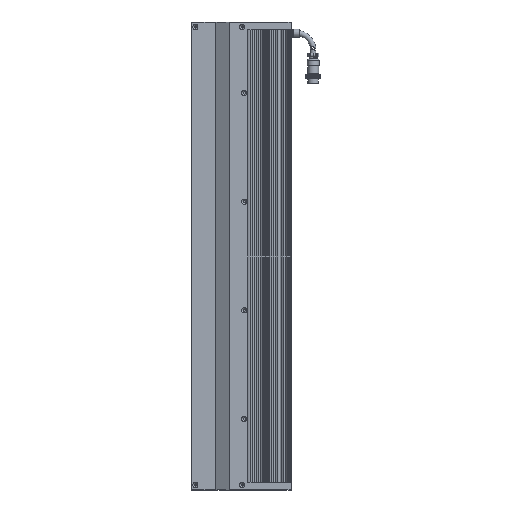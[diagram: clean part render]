
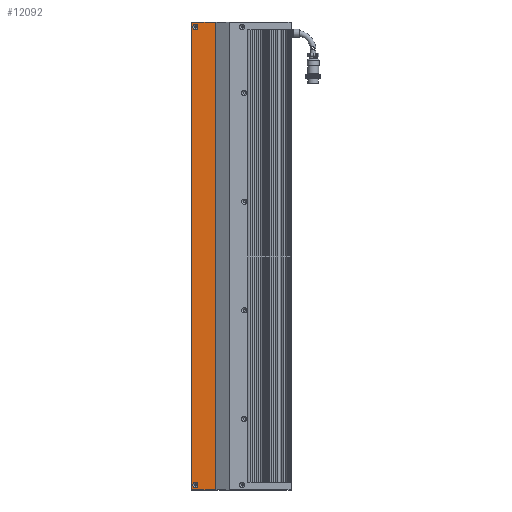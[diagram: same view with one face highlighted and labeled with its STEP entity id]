
A CAD part, left-side view. The second image highlights one B-rep face of the part: STEP entity #12092.
In plain terms, the highlighted planar face has unit normal (-1, 0, 0).
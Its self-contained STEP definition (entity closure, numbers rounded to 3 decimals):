
#1558 = DIRECTION ( 'NONE',  ( -1., 0., 0. ) ) ;
#1639 = EDGE_CURVE ( 'NONE', #123314, #17436, #33604, .T. ) ;
#2332 = ORIENTED_EDGE ( 'NONE', *, *, #108965, .F. ) ;
#3420 = CARTESIAN_POINT ( 'NONE',  ( -15.462, -7.561, 120. ) ) ;
#5259 = CARTESIAN_POINT ( 'NONE',  ( -15.462, -7.561, 679. ) ) ;
#7761 = AXIS2_PLACEMENT_3D ( 'NONE', #124153, #113135, #84696 ) ;
#10048 = EDGE_CURVE ( 'NONE', #24929, #85421, #80232, .T. ) ;
#11367 = VECTOR ( 'NONE', #71825, 1000. ) ;
#12092 = ADVANCED_FACE ( 'NONE', ( #41991, #28560, #13125 ), #63566, .F. ) ;
#13125 = FACE_OUTER_BOUND ( 'NONE', #73848, .T. ) ;
#13135 = DIRECTION ( 'NONE',  ( 0., 1., 0. ) ) ;
#17436 = VERTEX_POINT ( 'NONE', #70439 ) ;
#23473 = CARTESIAN_POINT ( 'NONE',  ( -15.462, 16.939, 676.65 ) ) ;
#24127 = DIRECTION ( 'NONE',  ( 0., 0., -1. ) ) ;
#24164 = EDGE_CURVE ( 'NONE', #17436, #24929, #94430, .T. ) ;
#24929 = VERTEX_POINT ( 'NONE', #49848 ) ;
#25849 = CARTESIAN_POINT ( 'NONE',  ( -15.462, -7.561, 677.5 ) ) ;
#26754 = ORIENTED_EDGE ( 'NONE', *, *, #30527, .F. ) ;
#28533 = AXIS2_PLACEMENT_3D ( 'NONE', #25849, #73338, #35216 ) ;
#28560 = FACE_BOUND ( 'NONE', #41383, .T. ) ;
#29096 = ORIENTED_EDGE ( 'NONE', *, *, #10048, .F. ) ;
#30527 = EDGE_CURVE ( 'NONE', #85421, #123314, #122242, .T. ) ;
#30822 = CARTESIAN_POINT ( 'NONE',  ( -15.462, 16.939, 125.5 ) ) ;
#33604 = LINE ( 'NONE', #49562, #91273 ) ;
#34321 = ORIENTED_EDGE ( 'NONE', *, *, #70617, .F. ) ;
#34702 = CIRCLE ( 'NONE', #110078, 3.15 ) ;
#35216 = DIRECTION ( 'NONE',  ( 0., 0., -1. ) ) ;
#41383 = EDGE_LOOP ( 'NONE', ( #2332 ) ) ;
#41991 = FACE_BOUND ( 'NONE', #115898, .T. ) ;
#49519 = CARTESIAN_POINT ( 'NONE',  ( -15.462, 21.439, 677.5 ) ) ;
#49562 = CARTESIAN_POINT ( 'NONE',  ( -15.462, -6.987, 677.5 ) ) ;
#49848 = CARTESIAN_POINT ( 'NONE',  ( -15.462, 21.439, 120. ) ) ;
#51387 = CARTESIAN_POINT ( 'NONE',  ( -15.462, 21.439, 679. ) ) ;
#54402 = VECTOR ( 'NONE', #107305, 1000. ) ;
#63566 = PLANE ( 'NONE',  #28533 ) ;
#68564 = VECTOR ( 'NONE', #13135, 1000. ) ;
#69651 = ORIENTED_EDGE ( 'NONE', *, *, #1639, .F. ) ;
#70439 = CARTESIAN_POINT ( 'NONE',  ( -15.462, -6.987, 120. ) ) ;
#70617 = EDGE_CURVE ( 'NONE', #96374, #96374, #34702, .T. ) ;
#71825 = DIRECTION ( 'NONE',  ( 0., -1., 0. ) ) ;
#73338 = DIRECTION ( 'NONE',  ( 1., 0., 0. ) ) ;
#73848 = EDGE_LOOP ( 'NONE', ( #29096, #80140, #69651, #26754 ) ) ;
#74505 = CARTESIAN_POINT ( 'NONE',  ( -15.462, -6.987, 679. ) ) ;
#80140 = ORIENTED_EDGE ( 'NONE', *, *, #24164, .F. ) ;
#80232 = LINE ( 'NONE', #49519, #54402 ) ;
#84696 = DIRECTION ( 'NONE',  ( 0., 0., 1. ) ) ;
#85421 = VERTEX_POINT ( 'NONE', #51387 ) ;
#89649 = CARTESIAN_POINT ( 'NONE',  ( -15.462, 16.939, 128.65 ) ) ;
#91273 = VECTOR ( 'NONE', #24127, 1000. ) ;
#94430 = LINE ( 'NONE', #3420, #68564 ) ;
#96374 = VERTEX_POINT ( 'NONE', #89649 ) ;
#98735 = DIRECTION ( 'NONE',  ( 0., 0., 1. ) ) ;
#107305 = DIRECTION ( 'NONE',  ( 0., 0., 1. ) ) ;
#108393 = VERTEX_POINT ( 'NONE', #23473 ) ;
#108965 = EDGE_CURVE ( 'NONE', #108393, #108393, #117351, .T. ) ;
#110078 = AXIS2_PLACEMENT_3D ( 'NONE', #30822, #1558, #98735 ) ;
#113135 = DIRECTION ( 'NONE',  ( -1., 0., 0. ) ) ;
#115898 = EDGE_LOOP ( 'NONE', ( #34321 ) ) ;
#117351 = CIRCLE ( 'NONE', #7761, 3.15 ) ;
#122242 = LINE ( 'NONE', #5259, #11367 ) ;
#123314 = VERTEX_POINT ( 'NONE', #74505 ) ;
#124153 = CARTESIAN_POINT ( 'NONE',  ( -15.462, 16.939, 673.5 ) ) ;
